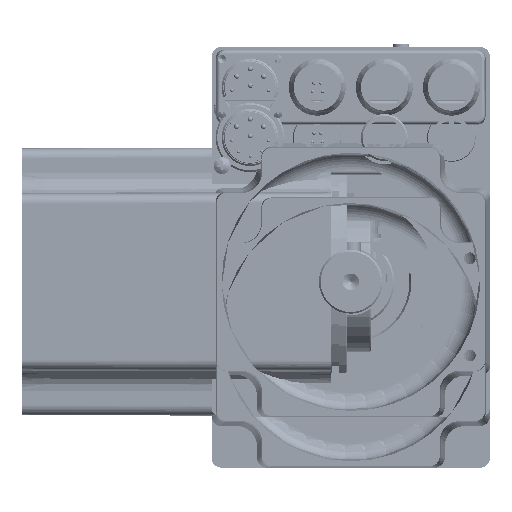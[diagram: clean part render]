
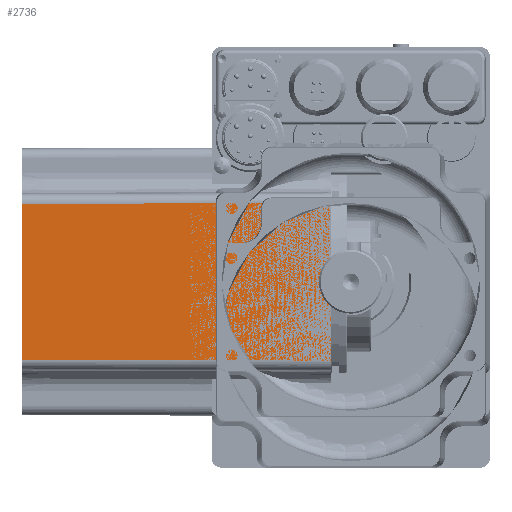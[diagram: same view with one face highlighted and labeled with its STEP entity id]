
A CAD part, front view. The second image highlights one B-rep face of the part: STEP entity #2736.
In plain terms, the highlighted planar face has unit normal (-0.003, -1, 0).
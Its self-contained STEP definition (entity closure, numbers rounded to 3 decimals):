
#2736 = ADVANCED_FACE( '', ( #7174 ), #7175, .T. );
#7174 = FACE_OUTER_BOUND( '', #15612, .T. );
#7175 = PLANE( '', #15613 );
#15612 = EDGE_LOOP( '', ( #32475, #32476, #32477, #32478 ) );
#15613 = AXIS2_PLACEMENT_3D( '', #32479, #32480, #32481 );
#32475 = ORIENTED_EDGE( '', *, *, #44956, .T. );
#32476 = ORIENTED_EDGE( '', *, *, #44120, .T. );
#32477 = ORIENTED_EDGE( '', *, *, #44543, .T. );
#32478 = ORIENTED_EDGE( '', *, *, #44957, .T. );
#32479 = CARTESIAN_POINT( '', ( -5., -40., 0. ) );
#32480 = DIRECTION( '', ( -0.003, -1., 0. ) );
#32481 = DIRECTION( '', ( 1., -0.003, 0. ) );
#44120 = EDGE_CURVE( '', #50825, #50823, #50826, .T. );
#44543 = EDGE_CURVE( '', #50823, #51522, #51523, .T. );
#44956 = EDGE_CURVE( '', #52181, #50825, #52182, .T. );
#44957 = EDGE_CURVE( '', #51522, #52181, #52183, .T. );
#50823 = VERTEX_POINT( '', #69280 );
#50825 = VERTEX_POINT( '', #69282 );
#50826 = LINE( '', #69283, #69284 );
#51522 = VERTEX_POINT( '', #70515 );
#51523 = LINE( '', #70516, #70517 );
#52181 = VERTEX_POINT( '', #71780 );
#52182 = LINE( '', #71781, #71782 );
#52183 = LINE( '', #71783, #71784 );
#69280 = CARTESIAN_POINT( '', ( -6., -39.997, 23.497 ) );
#69282 = CARTESIAN_POINT( '', ( -6., -39.997, -23.497 ) );
#69283 = CARTESIAN_POINT( '', ( -6., -39.997, 0. ) );
#69284 = VECTOR( '', #81562, 1000. );
#70515 = CARTESIAN_POINT( '', ( -98., -39.729, 23.229 ) );
#70516 = CARTESIAN_POINT( '', ( -98.991, -39.727, 23.227 ) );
#70517 = VECTOR( '', #82174, 1000. );
#71780 = CARTESIAN_POINT( '', ( -98., -39.729, -23.229 ) );
#71781 = CARTESIAN_POINT( '', ( -4.991, -40., -23.5 ) );
#71782 = VECTOR( '', #82742, 1000. );
#71783 = CARTESIAN_POINT( '', ( -98., -39.729, 0. ) );
#71784 = VECTOR( '', #82743, 1000. );
#81562 = DIRECTION( '', ( 0., 0., 1. ) );
#82174 = DIRECTION( '', ( -1., 0.003, -0.003 ) );
#82742 = DIRECTION( '', ( 1., -0.003, -0.003 ) );
#82743 = DIRECTION( '', ( 0., 0., -1. ) );
